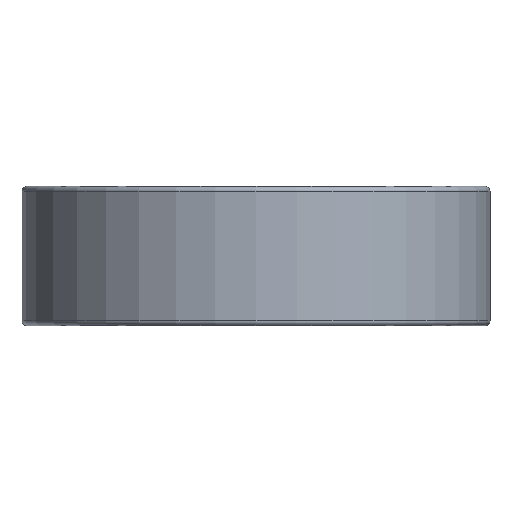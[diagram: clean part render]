
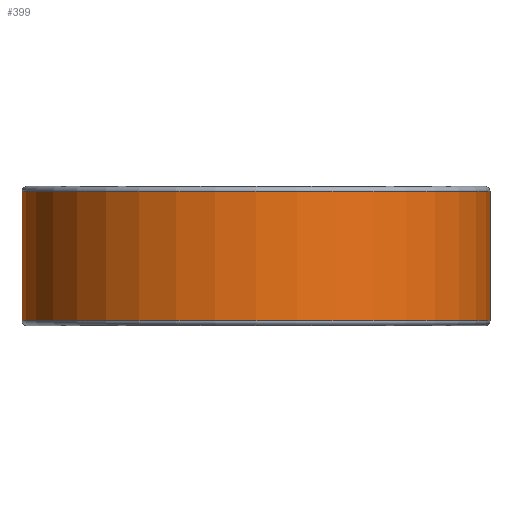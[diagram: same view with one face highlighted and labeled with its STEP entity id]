
A CAD part, front view. The second image highlights one B-rep face of the part: STEP entity #399.
In plain terms, the highlighted cylindrical face has radius 23.5 mm (diameter 47 mm), a full revolution.
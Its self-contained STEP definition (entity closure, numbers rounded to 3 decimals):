
#375=CYLINDRICAL_SURFACE('',#1452,23.5);
#399=ADVANCED_FACE('',(#673,#674),#375,.T.);
#673=FACE_BOUND('',#739,.T.);
#674=FACE_BOUND('',#740,.T.);
#739=EDGE_LOOP('',(#857));
#740=EDGE_LOOP('',(#858));
#857=ORIENTED_EDGE('',*,*,#1245,.T.);
#858=ORIENTED_EDGE('',*,*,#1246,.T.);
#1141=VERTEX_POINT('',#1971);
#1142=VERTEX_POINT('',#1973);
#1245=EDGE_CURVE('',#1141,#1141,#1381,.T.);
#1246=EDGE_CURVE('',#1142,#1142,#1382,.T.);
#1381=CIRCLE('',#1450,23.5);
#1382=CIRCLE('',#1451,23.5);
#1450=AXIS2_PLACEMENT_3D('',#1970,#1611,#1612);
#1451=AXIS2_PLACEMENT_3D('',#1972,#1613,#1614);
#1452=AXIS2_PLACEMENT_3D('',#1974,#1615,#1616);
#1611=DIRECTION('',(0.,0.,-1.));
#1612=DIRECTION('',(1.,0.,0.));
#1613=DIRECTION('',(0.,0.,1.));
#1614=DIRECTION('',(1.,0.,0.));
#1615=DIRECTION('',(0.,0.,-1.));
#1616=DIRECTION('',(-1.,0.,0.));
#1970=CARTESIAN_POINT('',(0.,0.,13.5));
#1971=CARTESIAN_POINT('',(23.5,0.,13.5));
#1972=CARTESIAN_POINT('',(0.,0.,0.5));
#1973=CARTESIAN_POINT('',(23.5,0.,0.5));
#1974=CARTESIAN_POINT('',(0.,0.,14.));
